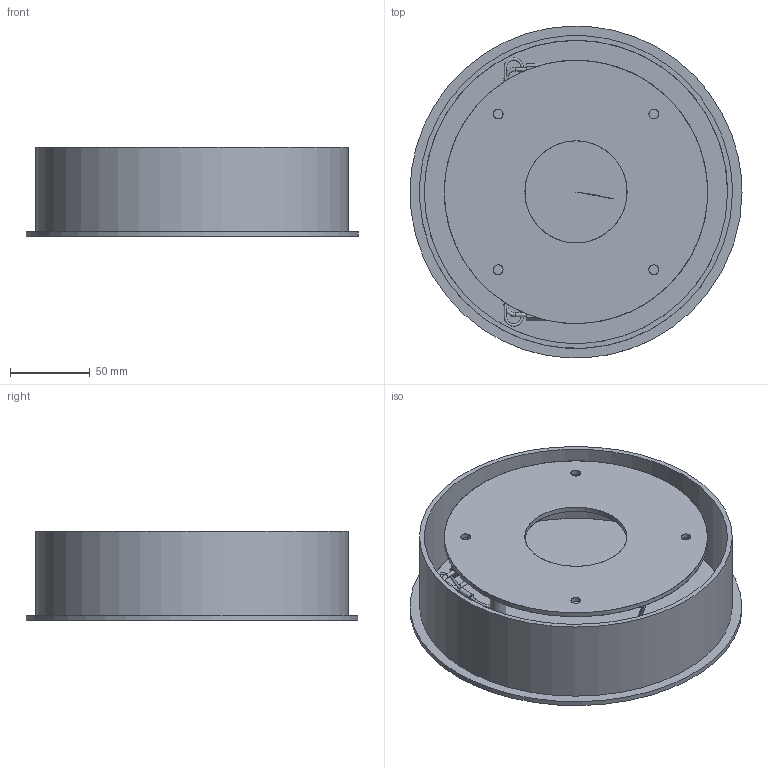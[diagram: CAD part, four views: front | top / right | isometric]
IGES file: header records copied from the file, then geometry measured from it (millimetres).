
Global section: file name: /Users/danielszollosi/Documents/SkLO/DEVELOPMENT/LIGHT 2024/MULTIPENDANT CANOPIES/Round Multipendant Canopies/SkLO_Round_Canopy_8_MCR08/3D/SkLO_Round_Canopy_8_MCR08_3D.igs; native system: Rhinoceros ( Sep 24 2023 ); preprocessor: Trout Lake IGES 012 Sep 24 2023; date: 241018.205814; units: millimetre
Bounding box: 208 x 207.76 x 56.3 mm (x, y, z)
Surface area: 185270 mm2 (no closed solid volume)
Topology: 0 solids, 0 shells, 109 faces, 588 edges, 532 vertices
Faces by surface type: bspline 109
